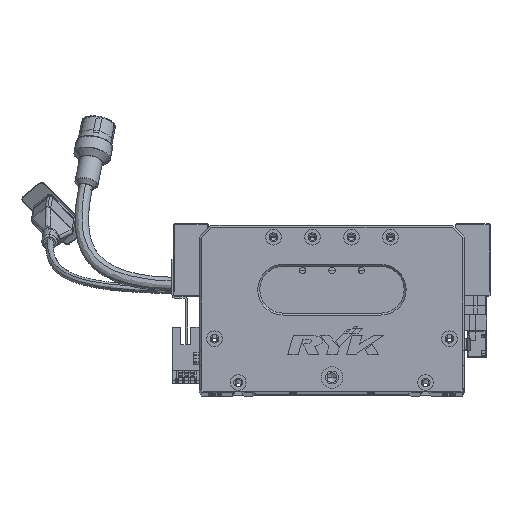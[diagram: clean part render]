
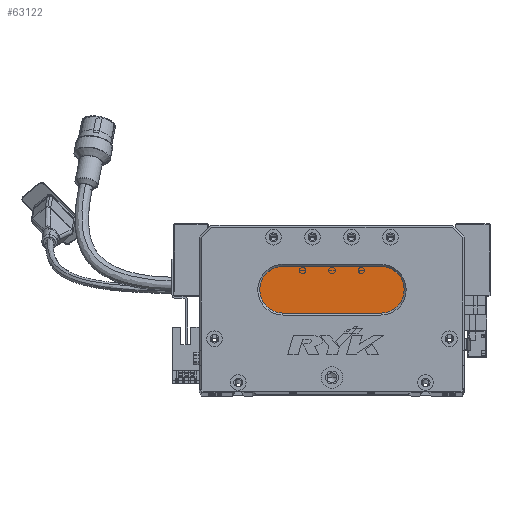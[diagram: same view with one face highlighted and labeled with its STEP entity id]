
A CAD part, top view. The second image highlights one B-rep face of the part: STEP entity #63122.
In plain terms, the highlighted planar face has unit normal (0, 0, 1) as drawn and (0, 0, -1) by its records, which use the part's own axes.
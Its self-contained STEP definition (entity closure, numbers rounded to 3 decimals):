
#2037 = CARTESIAN_POINT ( 'NONE',  ( 31., 52., 13. ) ) ;
#2289 = ORIENTED_EDGE ( 'NONE', *, *, #10823, .T. ) ;
#2500 = CIRCLE ( 'NONE', #14653, 12. ) ;
#4537 = DIRECTION ( 'NONE',  ( -1., 0., 0. ) ) ;
#7248 = DIRECTION ( 'NONE',  ( -1., 0., 0. ) ) ;
#8733 = DIRECTION ( 'NONE',  ( 0., 0., -1. ) ) ;
#10823 = EDGE_CURVE ( 'NONE', #46556, #19250, #35811, .T. ) ;
#12498 = CIRCLE ( 'NONE', #20157, 12. ) ;
#13652 = CARTESIAN_POINT ( 'NONE',  ( 93., 40., 13. ) ) ;
#14653 = AXIS2_PLACEMENT_3D ( 'NONE', #56835, #77624, #7248 ) ;
#14812 = DIRECTION ( 'NONE',  ( -1., 0., 0. ) ) ;
#17157 = AXIS2_PLACEMENT_3D ( 'NONE', #29860, #8733, #64341 ) ;
#18697 = DIRECTION ( 'NONE',  ( 0., 0., -1. ) ) ;
#19250 = VERTEX_POINT ( 'NONE', #13652 ) ;
#20157 = AXIS2_PLACEMENT_3D ( 'NONE', #62601, #41712, #14812 ) ;
#23331 = EDGE_CURVE ( 'NONE', #19250, #30988, #27014, .T. ) ;
#25957 = ORIENTED_EDGE ( 'NONE', *, *, #29243, .T. ) ;
#27014 = LINE ( 'NONE', #82783, #72465 ) ;
#29243 = EDGE_CURVE ( 'NONE', #30561, #50732, #2500, .T. ) ;
#29860 = CARTESIAN_POINT ( 'NONE',  ( 93., 52., 13. ) ) ;
#30561 = VERTEX_POINT ( 'NONE', #2037 ) ;
#30988 = VERTEX_POINT ( 'NONE', #56967 ) ;
#32967 = FACE_OUTER_BOUND ( 'NONE', #41299, .T. ) ;
#35811 = CIRCLE ( 'NONE', #17157, 12. ) ;
#35814 = ORIENTED_EDGE ( 'NONE', *, *, #23331, .T. ) ;
#41299 = EDGE_LOOP ( 'NONE', ( #2289, #35814, #42448, #25957, #81183 ) ) ;
#41712 = DIRECTION ( 'NONE',  ( 0., 0., -1. ) ) ;
#42448 = ORIENTED_EDGE ( 'NONE', *, *, #62835, .T. ) ;
#45540 = VECTOR ( 'NONE', #72865, 1000. ) ;
#45664 = CARTESIAN_POINT ( 'NONE',  ( 43., 64., 13. ) ) ;
#46556 = VERTEX_POINT ( 'NONE', #88064 ) ;
#47684 = LINE ( 'NONE', #86461, #45540 ) ;
#50732 = VERTEX_POINT ( 'NONE', #45664 ) ;
#50781 = EDGE_CURVE ( 'NONE', #50732, #46556, #47684, .T. ) ;
#56835 = CARTESIAN_POINT ( 'NONE',  ( 43., 52., 13. ) ) ;
#56967 = CARTESIAN_POINT ( 'NONE',  ( 43., 40., 13. ) ) ;
#60184 = PLANE ( 'NONE',  #88716 ) ;
#61687 = DIRECTION ( 'NONE',  ( -1., 0., 0. ) ) ;
#62601 = CARTESIAN_POINT ( 'NONE',  ( 43., 52., 13. ) ) ;
#62835 = EDGE_CURVE ( 'NONE', #30988, #30561, #12498, .T. ) ;
#63122 = ADVANCED_FACE ( 'NONE', ( #32967 ), #60184, .T. ) ;
#64341 = DIRECTION ( 'NONE',  ( -1., 0., 0. ) ) ;
#66783 = CARTESIAN_POINT ( 'NONE',  ( 93., 52., 13. ) ) ;
#72465 = VECTOR ( 'NONE', #61687, 1000. ) ;
#72865 = DIRECTION ( 'NONE',  ( 1., 0., 0. ) ) ;
#77624 = DIRECTION ( 'NONE',  ( 0., 0., -1. ) ) ;
#81183 = ORIENTED_EDGE ( 'NONE', *, *, #50781, .T. ) ;
#82783 = CARTESIAN_POINT ( 'NONE',  ( 93., 40., 13. ) ) ;
#86461 = CARTESIAN_POINT ( 'NONE',  ( 93., 64., 13. ) ) ;
#88064 = CARTESIAN_POINT ( 'NONE',  ( 93., 64., 13. ) ) ;
#88716 = AXIS2_PLACEMENT_3D ( 'NONE', #66783, #18697, #4537 ) ;
